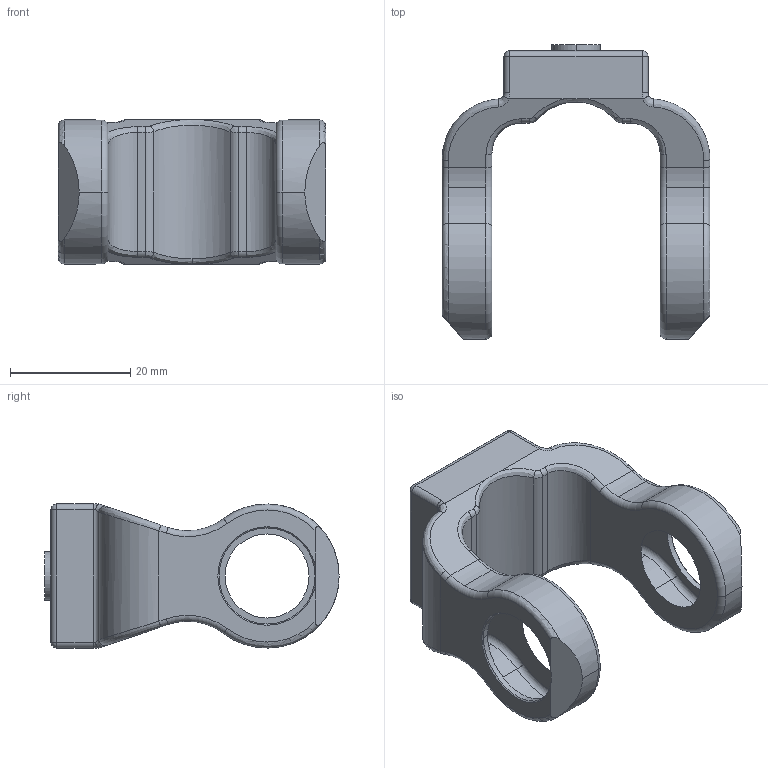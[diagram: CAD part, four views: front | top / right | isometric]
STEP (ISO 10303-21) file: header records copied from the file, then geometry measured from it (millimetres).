
FILE_DESCRIPTION (( 'STEP AP203' ), '1' );
FILE_NAME ('HJ-Y-02.STEP', '2022-04-08T08:21:09', ( 'Windows 蚚誧' ), ( '' ), 'SwSTEP 2.0', 'SolidWorks 2017', '' );
FILE_SCHEMA (( 'CONFIG_CONTROL_DESIGN' ));
Length unit declared in the file: millimetre
Products named in the file (1): HJ-Y-02
Bounding box: 44.6 x 49 x 24 mm (x, y, z)
Surface area: 6150.3 mm2 (no closed solid volume)
Topology: 0 solids, 1 shells, 121 faces, 312 edges, 187 vertices
Faces by surface type: cylinder 55, torus 22, bspline 19, plane 17, cone 4, sphere 4
Entity records: 4181 total; most frequent: CARTESIAN_POINT 1306, DIRECTION 608, ORIENTED_EDGE 598, EDGE_CURVE 308, AXIS2_PLACEMENT_3D 257, VERTEX_POINT 187, CIRCLE 154, EDGE_LOOP 128
